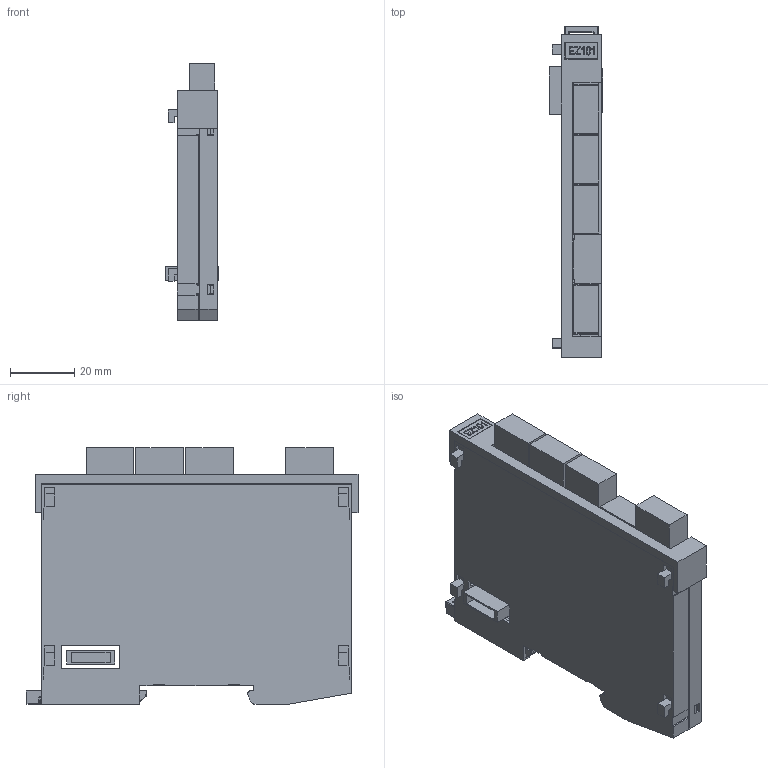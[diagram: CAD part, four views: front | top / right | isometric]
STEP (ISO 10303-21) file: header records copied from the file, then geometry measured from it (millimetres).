
FILE_DESCRIPTION (( 'STEP AP214' ), '1' );
FILE_NAME ('EZ101.STEP', '2015-08-18T12:34:38', ( 'SIGMATEK GmbH & Co KG' ), ( 'SIGMATEK GmbH & Co KG' ), 'SwSTEP 2.0', 'SolidWorks 2013', '' );
FILE_SCHEMA (( 'AUTOMOTIVE_DESIGN' ));
Length unit declared in the file: millimetre
Products named in the file (12): Dummy_4110251205 4pol.Minicombicon-Grundgehäuse RM3,5 1937512; Dummy_4080225346 Erni Stift; Dummy_4080225345 Erni Buchse; S-Dias Rasthaken 20130313; Schieber_f Suport; S-Dias Schale rechts_f Suport; S-Dias Schale links_f Suport; 4110251342_MF 10-5 MC CABUR_1854510000; EZ101; Steckerabdeckung_Var 9; LP_EZ101; Dummy_4110262104 4pol.Federkraftstecker f.2reih 1952283
Assembly tree (17 placements, depth 3):
  EZ101
    4110251342_MF 10-5 MC CABUR_1854510000
    S-Dias Schale links_f Suport
    S-Dias Schale rechts_f Suport
    Schieber_f Suport
    S-Dias Rasthaken 20130313
    LP_EZ101
      Dummy_4080225345 Erni Buchse
      Dummy_4080225346 Erni Stift
      Dummy_4110251205 4pol.Minicombicon-Grundgehäuse RM3,5 1937512  x4
      Dummy_4110262104 4pol.Federkraftstecker f.2reih 1952283  x4
    Steckerabdeckung_Var 9
Bounding box: 16.8 x 103.61 x 80.15 mm (x, y, z)
Volume: 32379.1 mm3; surface area: 45821.4 mm2
Topology: 16 solids, 16 shells, 918 faces, 2636 edges, 1746 vertices
Faces by surface type: plane 658, cylinder 135, bspline 69, cone 28, torus 15, sphere 13
Entity records: 34357 total; most frequent: CARTESIAN_POINT 8614, ORIENTED_EDGE 5050, DIRECTION 3940, EDGE_CURVE 2525, LINE 1830, VECTOR 1830, VERTEX_POINT 1678, AXIS2_PLACEMENT_3D 1055
